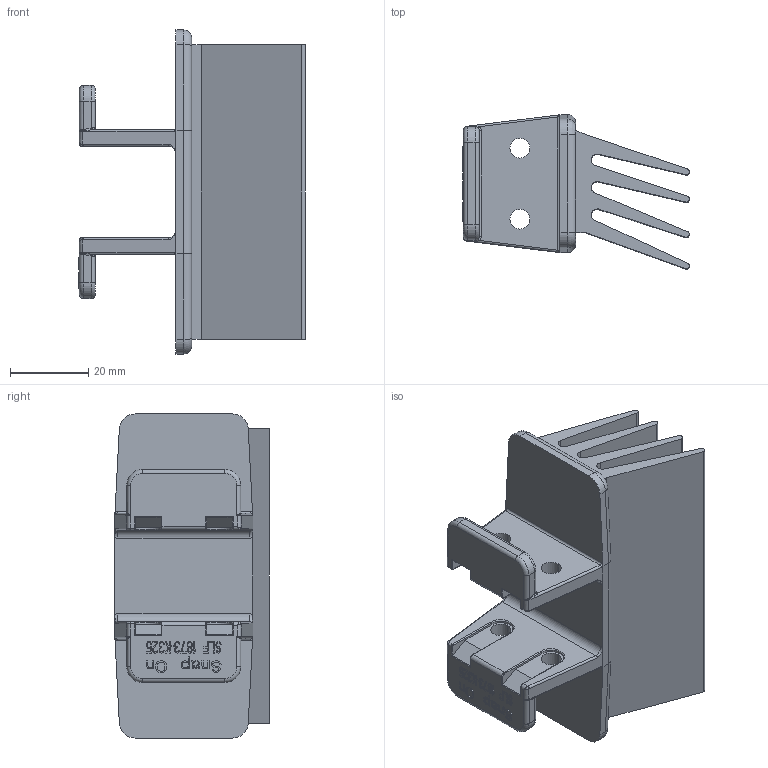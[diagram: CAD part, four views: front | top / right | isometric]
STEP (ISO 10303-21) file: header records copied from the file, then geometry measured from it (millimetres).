
FILE_DESCRIPTION((''),'2;1');
FILE_NAME('K095','2015-12-16T',('bhe'),(''),'CREO PARAMETRIC BY PTC INC, 2015290','CREO PARAMETRIC BY PTC INC, 2015290','');
FILE_SCHEMA(('CONFIG_CONTROL_DESIGN'));
Length unit declared in the file: millimetre
Products named in the file (1): K095
Bounding box: 57.78 x 39.3 x 82.6 mm (x, y, z)
Volume: 48139.7 mm3; surface area: 27136 mm2
Topology: 1 solids, 1 shells, 830 faces, 2302 edges, 1498 vertices
Faces by surface type: plane 669, cylinder 95, bspline 40, torus 26
Entity records: 28012 total; most frequent: CARTESIAN_POINT 6948, ORIENTED_EDGE 4604, DIRECTION 3976, EDGE_CURVE 2302, VECTOR 2008, LINE 2008, VERTEX_POINT 1498, AXIS2_PLACEMENT_3D 984
